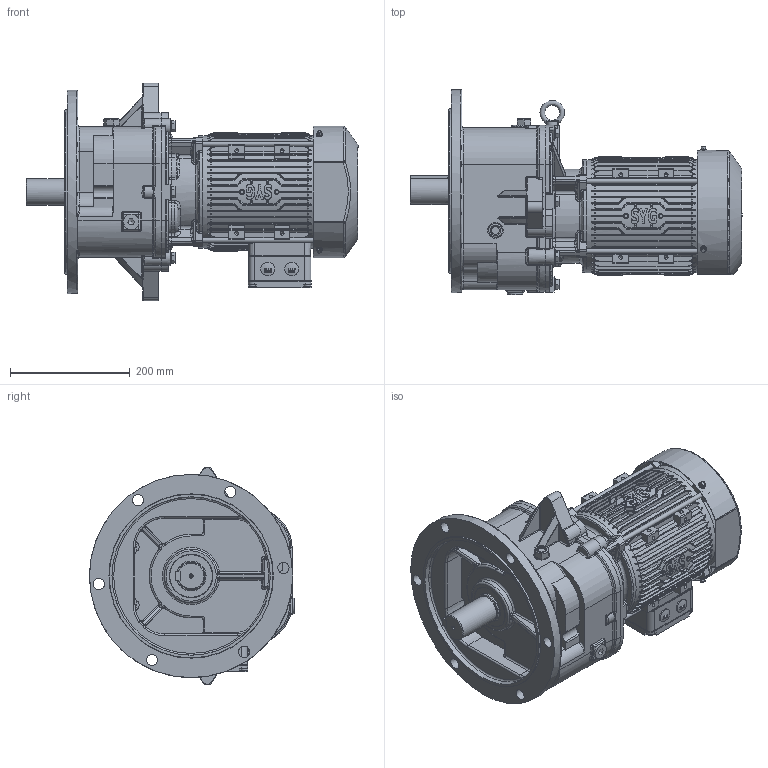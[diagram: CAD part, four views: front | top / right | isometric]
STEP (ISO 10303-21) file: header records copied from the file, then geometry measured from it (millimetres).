
FILE_DESCRIPTION(/* description */ (''),/* implementation_level */ '2;1');
FILE_NAME(/* name */ 'D:\▼ 3D：MG\01. 내부 직접 검토품\MG 172\외형도용 - ASS''Y\SK2\MG1720B - OUTLINE (SK2，VT，1.5kW).stp',/* time_stamp */ '2026-04-21T17:04:38+09:00',/* author */ ('이정훈'),/* organization */ (''),/* preprocessor_version */ 'ST-DEVELOPER v18.1',/* originating_system */ 'Autodesk Inventor 2022',/* authorisation */ '');
FILE_SCHEMA (('AUTOMOTIVE_DESIGN { 1 0 10303 214 3 1 1 }'));
Products named in the file (1): MG1720B - OUTLINE (SK2，VT，1.5kW
)
Bounding box: 555.5 x 343 x 364 mm (x, y, z)
Volume: 17090679.5 mm3; surface area: 944463.2 mm2
Topology: 2 solids, 2 shells, 4601 faces, 11628 edges, 7008 vertices
Faces by surface type: plane 1585, cylinder 1415, bspline 1068, cone 234, torus 207, sphere 92
Full cylindrical faces by diameter (mm): 4 x1, 5.5 x3, 8 x4, 8.376 x2, 9 x4, 9.5 x4, 10 x7, 12 x7, 13 x4, 13.097 x2, 19 x6, 23 x3, 26 x3, 26.194 x2, 30.5 x1, 32 x1, 44.4 x1, 45 x1, 47 x1, 50 x1, 62 x1, 72 x1, 189 x2, 265 x1, 275 x1, 340 x1
Entity records: 192827 total; most frequent: CARTESIAN_POINT 87164, ORIENTED_EDGE 23062, DIRECTION 21082, EDGE_CURVE 11531, AXIS2_PLACEMENT_3D 8259, VERTEX_POINT 7020, EDGE_LOOP 4737, FACE_OUTER_BOUND 4601
